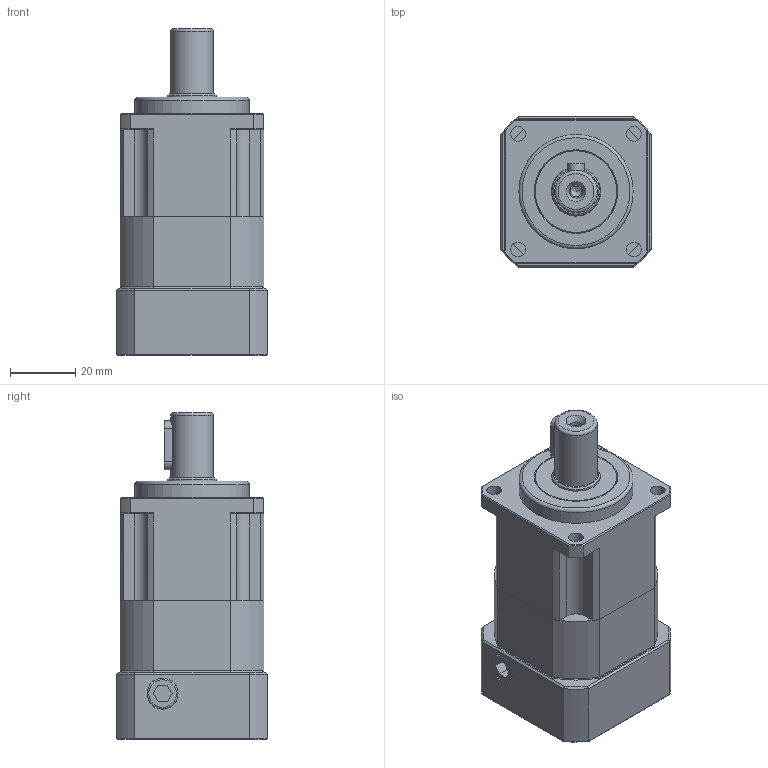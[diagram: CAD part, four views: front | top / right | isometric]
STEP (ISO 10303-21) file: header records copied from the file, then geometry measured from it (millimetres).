
FILE_DESCRIPTION((''),'2;1');
FILE_NAME('E:\감속기 도면\조립도(서보규격별)\KSB_PGX-H\KSB-44 (PGX44-H)\KSB-44-1 (30-46-M4-S8) Idle.stp','2022-06-03T16:50:56',('young'),(''),'Autodesk Inventor 2012','Autodesk Inventor 2012','');
FILE_SCHEMA(('AUTOMOTIVE_DESIGN { 1 0 10303 214 1 1 1 1 }'));
Length unit declared in the file: millimetre
Products named in the file (4): 조립품1; PGX44-H-1; 44-BK(30-46-M4) 21T-지멘스; BS 4168 : 부품 1 6각 소켓 머리 캡 나사 - 미터 M4 x 10
Assembly tree (6 placements, depth 2):
  조립품1
    PGX44-H-1
    44-BK(30-46-M4) 21T-지멘스
    BS 4168 : 부품 1 6각 소켓 머리 캡 나사 - 미터 M4 x 10  x4
Bounding box: 46 x 46 x 100 mm (x, y, z)
Volume: 114085 mm3; surface area: 42803.7 mm2
Topology: 14 solids, 14 shells, 456 faces, 1087 edges, 703 vertices
Faces by surface type: plane 241, cylinder 120, cone 72, torus 14, bspline 9
Full cylindrical faces by diameter (mm): 2.5 x4, 3.242 x5, 3.3 x9, 4 x6, 4.2 x4, 4.5 x9, 6 x4, 7 x5, 7.3 x4, 8.2 x1, 13 x1, 14.2 x1, 14.8 x2, 15 x3, 25 x4, 28 x1, 30 x2, 32 x2, 34 x1, 35 x1
Entity records: 12185 total; most frequent: CARTESIAN_POINT 2924, DIRECTION 1911, ORIENTED_EDGE 1710, EDGE_CURVE 855, AXIS2_PLACEMENT_3D 742, VERTEX_POINT 608, EDGE_LOOP 589, VECTOR 427
